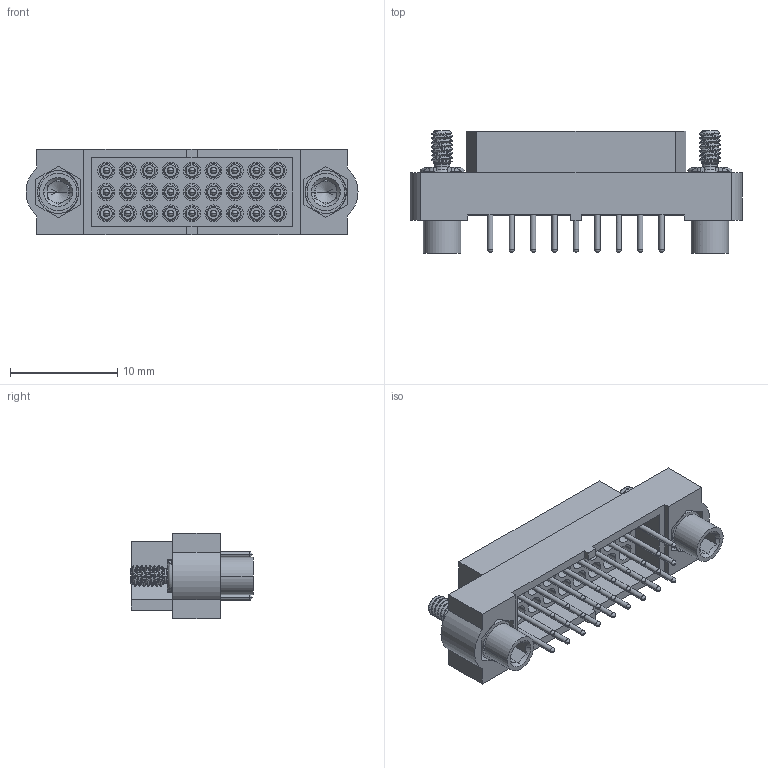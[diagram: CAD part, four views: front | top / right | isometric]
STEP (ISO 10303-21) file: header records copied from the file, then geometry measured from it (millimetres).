
FILE_DESCRIPTION((''),'2;1');
FILE_NAME('M83-LFT1F2N36-0000-000_ASM','2011-11-30T',('WBOURNE'),(''),'PRO/ENGINEER BY PARAMETRIC TECHNOLOGY CORPORATION, 2010280','PRO/ENGINEER BY PARAMETRIC TECHNOLOGY CORPORATION, 2010280','');
FILE_SCHEMA(('CONFIG_CONTROL_DESIGN','SHAPE_APPEARANCE_LAYERS_GROUPS'));
Length unit declared in the file: millimetre
Products named in the file (7): M83C108359C; M83-027; Y3198; M83-028_ASM; M83-2200001_ASSEMBLED; M83-2210000; M83-LFT1F2N36-0000-000_ASM
Assembly tree (34 placements, depth 3):
  M83-LFT1F2N36-0000-000_ASM
    M83C108359C
    M83-028_ASM  x27
      M83-027
      Y3198
    M83-2200001_ASSEMBLED  x2
    M83-2210000  x2
Bounding box: 31 x 11.4 x 8 mm (x, y, z)
Volume: 1042.2 mm3; surface area: 3476.5 mm2
Topology: 59 solids, 61 shells, 3044 faces, 7038 edges, 4144 vertices
Faces by surface type: bspline 1321, plane 673, cylinder 590, cone 344, torus 62, sphere 54
Entity records: 22724 total; most frequent: CARTESIAN_POINT 8379, ORIENTED_EDGE 2202, DIRECTION 2171, PRESENTATION_STYLE_ASSIGNMENT 1109, STYLED_ITEM 1109, CURVE_STYLE 1103, EDGE_CURVE 1103, AXIS2_PLACEMENT_3D 845
